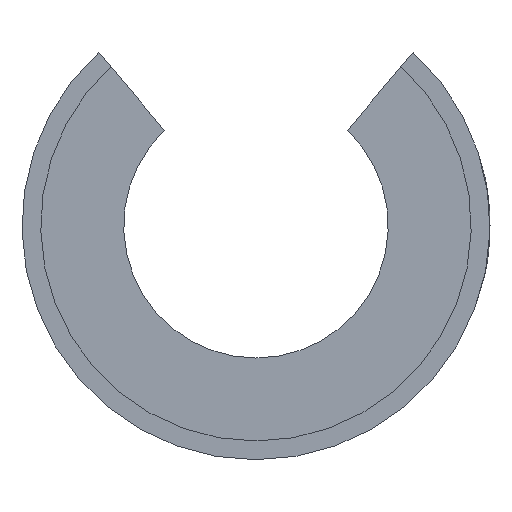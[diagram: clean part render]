
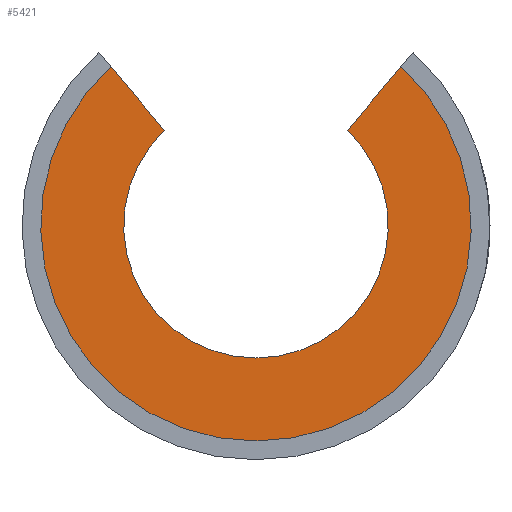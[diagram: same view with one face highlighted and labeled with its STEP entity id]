
A CAD part, left-side view. The second image highlights one B-rep face of the part: STEP entity #5421.
In plain terms, the highlighted planar face has unit normal (-1, 0, 0).
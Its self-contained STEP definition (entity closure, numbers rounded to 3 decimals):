
#126=PLANE('',#5844);
#402=LINE('',#8474,#864);
#403=LINE('',#8475,#865);
#864=VECTOR('',#6449,1000.);
#865=VECTOR('',#6450,1000.);
#1285=CIRCLE('',#5820,6.5);
#1297=CIRCLE('',#5845,10.578);
#1671=ORIENTED_EDGE('',*,*,#3304,.F.);
#1672=ORIENTED_EDGE('',*,*,#3305,.T.);
#1673=ORIENTED_EDGE('',*,*,#3268,.T.);
#1674=ORIENTED_EDGE('',*,*,#3306,.T.);
#3268=EDGE_CURVE('',#4089,#4091,#1285,.F.);
#3304=EDGE_CURVE('',#4114,#4115,#1297,.T.);
#3305=EDGE_CURVE('',#4114,#4089,#402,.T.);
#3306=EDGE_CURVE('',#4091,#4115,#403,.T.);
#4089=VERTEX_POINT('',#8395);
#4091=VERTEX_POINT('',#8399);
#4114=VERTEX_POINT('',#8472);
#4115=VERTEX_POINT('',#8473);
#4647=EDGE_LOOP('',(#1671,#1672,#1673,#1674));
#5025=FACE_BOUND('',#4647,.T.);
#5421=ADVANCED_FACE('',(#5025),#126,.T.);
#5820=AXIS2_PLACEMENT_3D('',#8400,#6373,#6374);
#5844=AXIS2_PLACEMENT_3D('',#8470,#6445,#6446);
#5845=AXIS2_PLACEMENT_3D('',#8471,#6447,#6448);
#6373=DIRECTION('',(-1.,0.,0.));
#6374=DIRECTION('',(0.,0.,1.));
#6445=DIRECTION('',(-1.,0.,0.));
#6446=DIRECTION('',(0.,0.,-1.));
#6447=DIRECTION('',(1.,0.,0.));
#6448=DIRECTION('',(0.,0.,-1.));
#6449=DIRECTION('',(0.,0.643,-0.766));
#6450=DIRECTION('',(0.,0.643,0.766));
#8395=CARTESIAN_POINT('',(-15.,-4.5,4.69));
#8399=CARTESIAN_POINT('',(-15.,4.5,4.69));
#8400=CARTESIAN_POINT('',(-15.,0.,0.));
#8470=CARTESIAN_POINT('',(-15.,0.,0.));
#8471=CARTESIAN_POINT('',(-15.,0.,0.));
#8472=CARTESIAN_POINT('',(-15.,-7.125,7.818));
#8473=CARTESIAN_POINT('',(-15.,7.125,7.818));
#8474=CARTESIAN_POINT('',(-15.,-4.5,4.69));
#8475=CARTESIAN_POINT('',(-15.,4.5,4.69));
